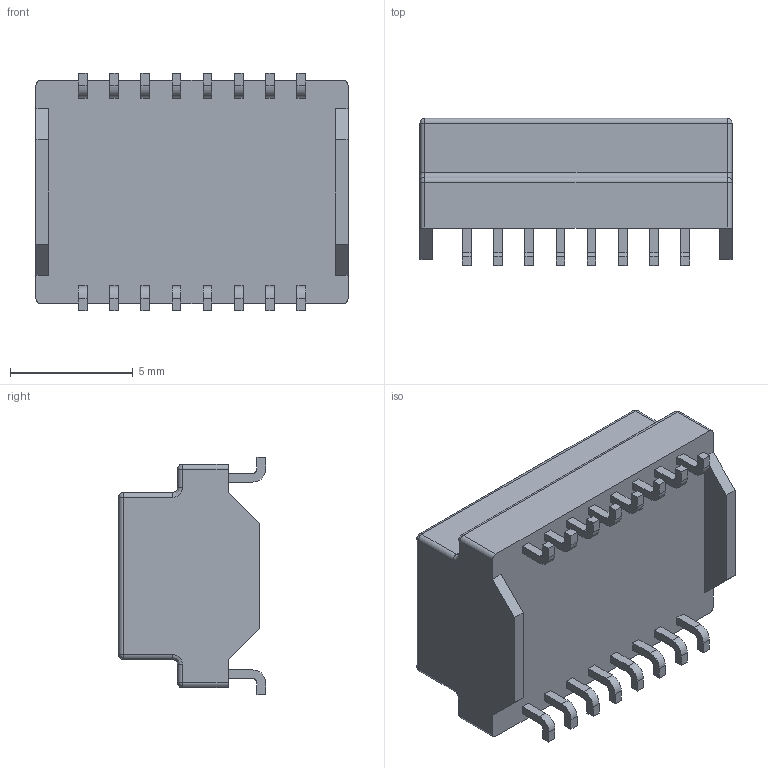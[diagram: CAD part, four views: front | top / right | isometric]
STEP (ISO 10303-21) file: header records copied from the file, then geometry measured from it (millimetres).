
FILE_DESCRIPTION (( 'STEP AP214' ), '1' );
FILE_NAME ('HX1188FNL_3D.STEP', '2018-03-07T09:08:05', ( '' ), ( '' ), 'SwSTEP 2.0', 'SolidWorks 2015', '' );
FILE_SCHEMA (( 'AUTOMOTIVE_DESIGN' ));
Length unit declared in the file: millimetre
Products named in the file (1): HX1188FNL_3D
Bounding box: 12.7 x 5.99 x 9.65 mm (x, y, z)
Volume: 456.7 mm3; surface area: 479.5 mm2
Topology: 1 solids, 1 shells, 197 faces, 510 edges, 324 vertices
Faces by surface type: plane 131, cylinder 54, bspline 12
Entity records: 8221 total; most frequent: CARTESIAN_POINT 1216, ORIENTED_EDGE 1004, DIRECTION 978, EDGE_CURVE 502, VECTOR 390, LINE 390, VERTEX_POINT 324, AXIS2_PLACEMENT_3D 294
